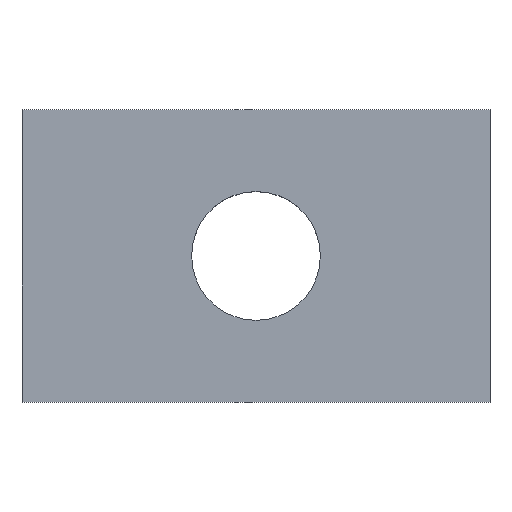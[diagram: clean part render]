
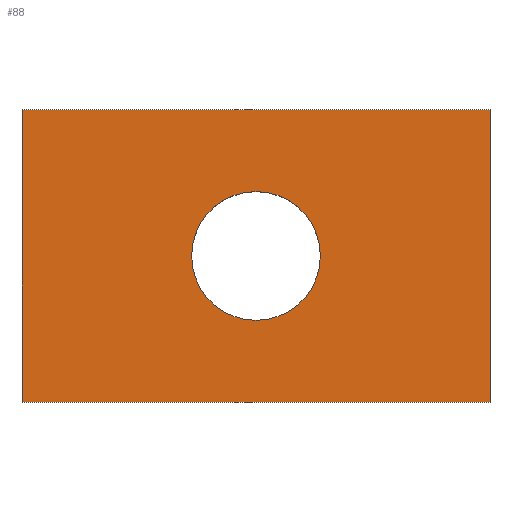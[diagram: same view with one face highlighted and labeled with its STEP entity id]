
A CAD part, top view. The second image highlights one B-rep face of the part: STEP entity #88.
In plain terms, the highlighted planar face has unit normal (0, 0, 1).
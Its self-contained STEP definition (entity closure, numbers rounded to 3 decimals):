
#24 = VERTEX_POINT('',#25);
#25 = CARTESIAN_POINT('',(38.,97.29,9.74));
#40 = VERTEX_POINT('',#41);
#41 = CARTESIAN_POINT('',(38.,102.29,9.74));
#47 = EDGE_CURVE('',#24,#40,#48,.T.);
#48 = LINE('',#49,#50);
#49 = CARTESIAN_POINT('',(38.,97.29,9.74));
#50 = VECTOR('',#51,1.);
#51 = DIRECTION('',(0.,1.,0.));
#70 = EDGE_CURVE('',#24,#71,#73,.T.);
#71 = VERTEX_POINT('',#72);
#72 = CARTESIAN_POINT('',(46.,97.29,9.74));
#73 = LINE('',#74,#75);
#74 = CARTESIAN_POINT('',(38.,97.29,9.74));
#75 = VECTOR('',#76,1.);
#76 = DIRECTION('',(1.,0.,0.));
#88 = ADVANCED_FACE('',(#89,#107),#118,.T.);
#89 = FACE_BOUND('',#90,.T.);
#90 = EDGE_LOOP('',(#91,#92,#93,#101));
#91 = ORIENTED_EDGE('',*,*,#47,.F.);
#92 = ORIENTED_EDGE('',*,*,#70,.T.);
#93 = ORIENTED_EDGE('',*,*,#94,.T.);
#94 = EDGE_CURVE('',#71,#95,#97,.T.);
#95 = VERTEX_POINT('',#96);
#96 = CARTESIAN_POINT('',(46.,102.29,9.74));
#97 = LINE('',#98,#99);
#98 = CARTESIAN_POINT('',(46.,97.29,9.74));
#99 = VECTOR('',#100,1.);
#100 = DIRECTION('',(0.,1.,0.));
#101 = ORIENTED_EDGE('',*,*,#102,.F.);
#102 = EDGE_CURVE('',#40,#95,#103,.T.);
#103 = LINE('',#104,#105);
#104 = CARTESIAN_POINT('',(38.,102.29,9.74));
#105 = VECTOR('',#106,1.);
#106 = DIRECTION('',(1.,0.,0.));
#107 = FACE_BOUND('',#108,.T.);
#108 = EDGE_LOOP('',(#109));
#109 = ORIENTED_EDGE('',*,*,#110,.F.);
#110 = EDGE_CURVE('',#111,#111,#113,.T.);
#111 = VERTEX_POINT('',#112);
#112 = CARTESIAN_POINT('',(43.1,99.79,9.74));
#113 = CIRCLE('',#114,1.1);
#114 = AXIS2_PLACEMENT_3D('',#115,#116,#117);
#115 = CARTESIAN_POINT('',(42.,99.79,9.74));
#116 = DIRECTION('',(0.,0.,1.));
#117 = DIRECTION('',(1.,0.,0.));
#118 = PLANE('',#119);
#119 = AXIS2_PLACEMENT_3D('',#120,#121,#122);
#120 = CARTESIAN_POINT('',(38.,97.29,9.74));
#121 = DIRECTION('',(0.,0.,1.));
#122 = DIRECTION('',(1.,0.,0.));
